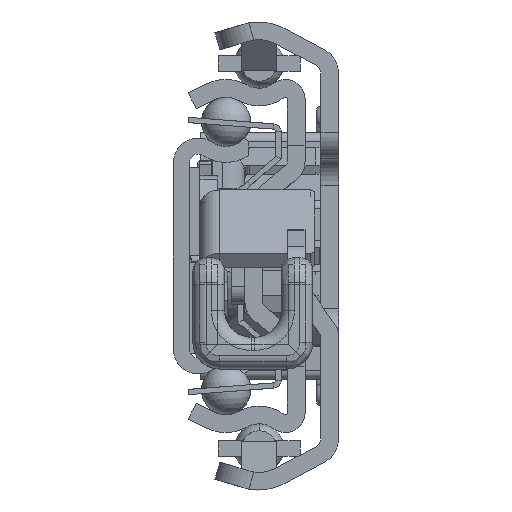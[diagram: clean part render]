
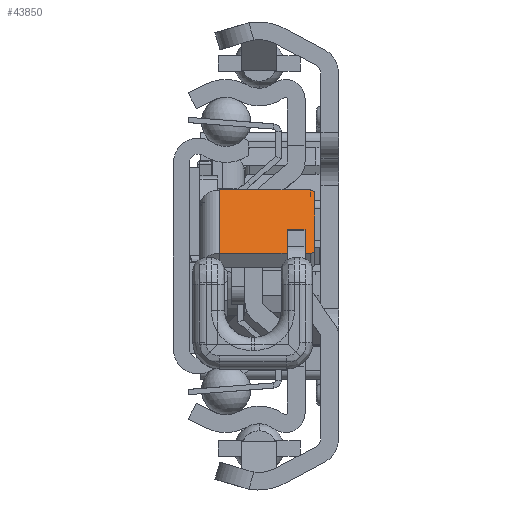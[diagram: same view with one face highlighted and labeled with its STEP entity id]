
A CAD part, left-side view. The second image highlights one B-rep face of the part: STEP entity #43850.
In plain terms, the highlighted planar face has unit normal (-0.597, 0, 0.802) as drawn and (-0.597, -0.802, 0) by its records, which use the part's own axes.
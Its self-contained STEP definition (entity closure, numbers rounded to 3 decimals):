
#43238=DIRECTION('',(0.802,-0.597,0.));
#43239=VECTOR('',#43238,12.);
#43240=CARTESIAN_POINT('',(31.957,-10.314,-0.2));
#43241=LINE('',#43240,#43239);
#43266=DIRECTION('',(0.,0.,1.));
#43267=VECTOR('',#43266,10.3);
#43268=CARTESIAN_POINT('',(41.586,-17.476,-10.5));
#43269=LINE('',#43268,#43267);
#43270=CARTESIAN_POINT('',(41.184,-17.178,-10.5));
#43271=DIRECTION('',(-0.597,-0.802,0.));
#43272=DIRECTION('',(0.,0.,-1.));
#43273=AXIS2_PLACEMENT_3D('',#43270,#43271,#43272);
#43275=DIRECTION('',(0.802,-0.597,0.));
#43276=VECTOR('',#43275,11.);
#43277=CARTESIAN_POINT('',(32.358,-10.613,-11.));
#43278=LINE('',#43277,#43276);
#43279=CARTESIAN_POINT('',(32.358,-10.613,-10.5));
#43280=DIRECTION('',(-0.597,-0.802,0.));
#43281=DIRECTION('',(-0.802,0.597,0.));
#43282=AXIS2_PLACEMENT_3D('',#43279,#43280,#43281);
#43284=DIRECTION('',(0.,0.,-1.));
#43285=VECTOR('',#43284,10.3);
#43286=CARTESIAN_POINT('',(31.957,-10.314,-0.2));
#43287=LINE('',#43286,#43285);
#43504=CARTESIAN_POINT('',(31.957,-10.314,-0.2));
#43505=CARTESIAN_POINT('',(41.586,-17.476,-0.2));
#43506=VERTEX_POINT('',#43504);
#43507=VERTEX_POINT('',#43505);
#43536=CARTESIAN_POINT('',(41.586,-17.476,-10.5));
#43537=VERTEX_POINT('',#43536);
#43538=CARTESIAN_POINT('',(32.358,-10.613,-11.));
#43539=CARTESIAN_POINT('',(41.184,-17.178,-11.));
#43540=VERTEX_POINT('',#43538);
#43541=VERTEX_POINT('',#43539);
#43542=CARTESIAN_POINT('',(31.957,-10.314,-10.5));
#43543=VERTEX_POINT('',#43542);
#43832=CARTESIAN_POINT('',(34.726,-12.374,2.));
#43833=DIRECTION('',(0.597,0.802,0.));
#43834=DIRECTION('',(0.802,-0.597,0.));
#43835=AXIS2_PLACEMENT_3D('',#43832,#43833,#43834);
#43836=PLANE('',#43835);
#43838=ORIENTED_EDGE('',*,*,#43837,.F.);
#43840=ORIENTED_EDGE('',*,*,#43839,.F.);
#43842=ORIENTED_EDGE('',*,*,#43841,.F.);
#43844=ORIENTED_EDGE('',*,*,#43843,.F.);
#43846=ORIENTED_EDGE('',*,*,#43845,.F.);
#43847=ORIENTED_EDGE('',*,*,#43819,.T.);
#43848=EDGE_LOOP('',(#43838,#43840,#43842,#43844,#43846,#43847));
#43849=FACE_OUTER_BOUND('',#43848,.F.);
#43274=CIRCLE('',#43273,0.5);
#43283=CIRCLE('',#43282,0.5);
#43819=EDGE_CURVE('',#43506,#43507,#43241,.T.);
#43837=EDGE_CURVE('',#43537,#43507,#43269,.T.);
#43839=EDGE_CURVE('',#43541,#43537,#43274,.T.);
#43841=EDGE_CURVE('',#43540,#43541,#43278,.T.);
#43843=EDGE_CURVE('',#43543,#43540,#43283,.T.);
#43845=EDGE_CURVE('',#43506,#43543,#43287,.T.);
#43850=ADVANCED_FACE('',(#43849),#43836,.F.);
